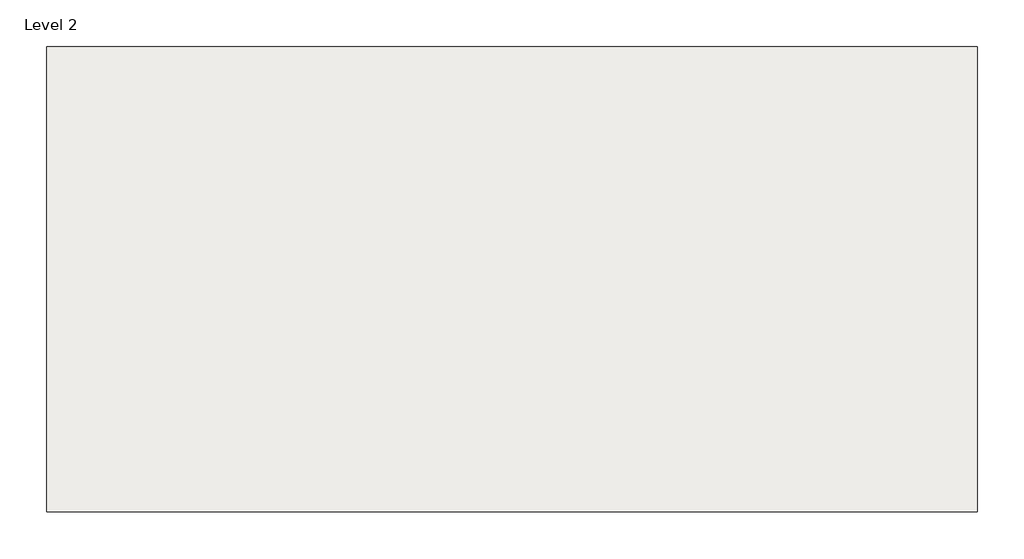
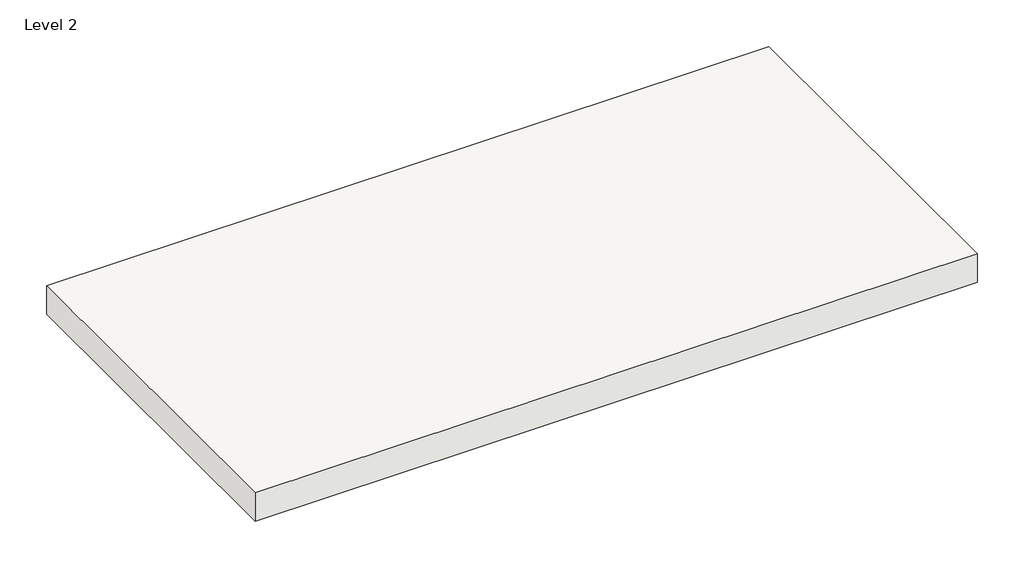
# One storey: 1 slab.
"""IFC4 building model written with IfcOpenShell, lengths in millimetres."""

from ifc_helpers import new_model, si_unit, frame, origin, place, context, project, spatial, polyline, outline, extrude, element, save

model = new_model("IFC4")

# Units and contexts
model_context = context("Model", 3, world=origin())
ifc_project = project(units=[si_unit("LENGTHUNIT", "METRE", prefix="MILLI")], contexts=[model_context])

# Site, building, storey
site = spatial("IfcSite", under=ifc_project)
building = spatial("IfcBuilding", under=site)
storey = spatial("IfcBuildingStorey", under=building, Name="Level 2", Elevation=3048.0)

# Slab
placement = place(None, origin())
element("IfcSlab", 1, ObjectType="Toris 4A - 4\" Deep Acoustic Roof Deck w Rigid Insulation", at=placement, inside=storey, context=model_context, shape_type="SweptSolid", body=[
    extrude(outline(polyline([(-8968.1893377, -5984.9043122), (-8968.1893377, -7813.7043122), (-12625.7893377, -7813.7043122), (-12625.7893377, -5984.9043122), (-8968.1893377, -5984.9043122)])), frame((0.0, 0.0, 2895.6), z_axis=(0.0, 0.0, 1.0), x_axis=(1.0, 0.0, 0.0)), (0.0, 0.0, 1.0), 152.4),
])

save(model, "model.ifc")
